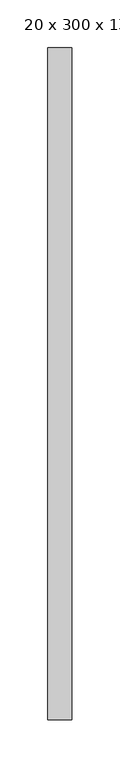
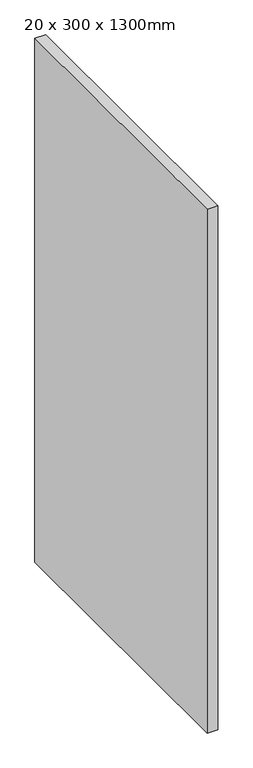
"""IFC4 building model written with IfcOpenShell, lengths in millimetres: proxy geometry, 盥洗室隔断 3 3D : 20 x 300 x 1300mm."""

import ifcopenshell
import ifcopenshell.guid

model = None  # the IFC model being written
_history = None  # IfcOwnerHistory: only IFC2X3 demands one
_inside = {}  # id of a spatial element -> (the spatial element, [elements in it])
_under = {}  # id of a project, library or spatial element -> (it, [spatial elements below it])
_declared = {}  # id of a project -> (the project, [libraries it declares])
_typed = {}  # id of a type object -> (the type object, [elements of that type])
_made_of = {}  # id of a material, layer set ... -> (it, [elements and type objects made of it])


def new_model(schema):
    """Start an empty IFC model of exactly this schema.

    Asked for "IFC4X3", IfcOpenShell would pick the latest addendum, in which some entities
    have other attributes; the version numbers below select the first issue.
    IFC2X3 requires an IfcOwnerHistory on every rooted entity: one is made here for all.
    """
    global model, _history
    if schema == "IFC4X3":
        model = ifcopenshell.file(schema_version=(4, 3, 0, 0))
    else:
        model = ifcopenshell.file(schema=schema)
    _inside.clear()
    _under.clear()
    _declared.clear()
    _typed.clear()
    _made_of.clear()
    _history = None
    if model.schema == "IFC2X3":
        org = make("IfcOrganization", Name="unknown")
        user = make(
            "IfcPersonAndOrganization",
            ThePerson=make("IfcPerson", FamilyName="unknown"),
            TheOrganization=org,
        )
        app = make(
            "IfcApplication",
            ApplicationDeveloper=org,
            Version="unknown",
            ApplicationFullName="unknown",
            ApplicationIdentifier="unknown",
        )
        _history = make(
            "IfcOwnerHistory",
            OwningUser=user,
            OwningApplication=app,
            ChangeAction="ADDED",
            CreationDate=0,
        )
    return model


def make(cls, **values):
    """One entity of the class cls with the attributes given. An attribute that is None is left unset."""
    return model.create_entity(
        cls, **{name: value for name, value in values.items() if value is not None}
    )


def rooted(cls, **values):
    """An entity with a GlobalId (a new one), such as an element, a storey or a relation."""
    return make(cls, GlobalId=ifcopenshell.guid.new(), OwnerHistory=_history, **values)


def si_unit(unit_type, name, prefix=None):
    """IfcSIUnit, for example si_unit("LENGTHUNIT", "METRE", prefix="MILLI")."""
    return make("IfcSIUnit", UnitType=unit_type, Prefix=prefix, Name=name)


def assignment(units):
    """IfcUnitAssignment: the units of a project."""
    return None if units is None else make("IfcUnitAssignment", Units=units)


def point(xyz):
    """IfcCartesianPoint."""
    return None if xyz is None else make("IfcCartesianPoint", Coordinates=xyz)


def direction(xyz):
    """IfcDirection."""
    return None if xyz is None else make("IfcDirection", DirectionRatios=xyz)


def frame(location, z_axis=None, x_axis=None):
    """IfcAxis2Placement3D, a coordinate frame: its origin and axes. An axis left out is left unset."""
    return make(
        "IfcAxis2Placement3D",
        Location=point(location),
        Axis=direction(z_axis),
        RefDirection=direction(x_axis),
    )


def origin():
    """The frame at (0, 0, 0) with its axes left unset."""
    return frame((0.0, 0.0, 0.0))


def origin_with_axes():
    """The frame at (0, 0, 0) with the z axis (0, 0, 1) and the x axis (1, 0, 0) written out."""
    return frame((0.0, 0.0, 0.0), z_axis=(0.0, 0.0, 1.0), x_axis=(1.0, 0.0, 0.0))


def place(relative_to, where):
    """IfcLocalPlacement: puts the frame where relative to a parent placement (None: the world)."""
    return make(
        "IfcLocalPlacement", PlacementRelTo=relative_to, RelativePlacement=where
    )


def context(
    kind, dimensions, precision=None, world=None, true_north=None, identifier=None
):
    """IfcGeometricRepresentationContext, for example the 3D "Model" context."""
    return make(
        "IfcGeometricRepresentationContext",
        ContextIdentifier=identifier,
        ContextType=kind,
        CoordinateSpaceDimension=dimensions,
        Precision=precision,
        WorldCoordinateSystem=world,
        TrueNorth=true_north,
    )


def project(units=None, contexts=None):
    """IfcProject with its units and contexts."""
    return rooted(
        "IfcProject",
        Name="project",
        RepresentationContexts=contexts,
        UnitsInContext=assignment(units),
    )


def spatial(cls, under=None, at=None, **own):
    """A site, building, storey or space (cls), placed at a placement, below another one or the project."""
    s = rooted(cls, ObjectPlacement=at, **own)
    if under is not None:
        _under.setdefault(under.id(), (under, []))[1].append(s)
    return s


def polyline(points):
    """IfcPolyline through the points."""
    return make("IfcPolyline", Points=[point(p) for p in points])


def outline(outer, holes=None, kind="AREA"):
    """IfcArbitraryClosedProfileDef: a profile drawn as a closed curve; with holes, ...WithVoids."""
    if holes is None:
        return make("IfcArbitraryClosedProfileDef", ProfileType=kind, OuterCurve=outer)
    return make(
        "IfcArbitraryProfileDefWithVoids",
        ProfileType=kind,
        OuterCurve=outer,
        InnerCurves=holes,
    )


def extrude(swept, where, along, depth):
    """IfcExtrudedAreaSolid: the profile swept, set in the frame where, extruded along a direction by depth."""
    return make(
        "IfcExtrudedAreaSolid",
        SweptArea=swept,
        Position=where,
        ExtrudedDirection=direction(along),
        Depth=depth,
    )


def shape(context_of_items, identifier, shape_type, items):
    """IfcShapeRepresentation: the items that make up one representation, for example the "Body"."""
    return make(
        "IfcShapeRepresentation",
        ContextOfItems=context_of_items,
        RepresentationIdentifier=identifier,
        RepresentationType=shape_type,
        Items=items,
    )


def source(mapping_origin, context_of_items, identifier, shape_type, items):
    """IfcRepresentationMap: a shape defined once, which mapped items show again and again."""
    return make(
        "IfcRepresentationMap",
        MappingOrigin=mapping_origin,
        MappedRepresentation=shape(context_of_items, identifier, shape_type, items),
    )


def transform(
    local_origin,
    x_axis=None,
    y_axis=None,
    z_axis=None,
    scale=None,
    scale2=None,
    scale3=None,
    uniform=True,
):
    """IfcCartesianTransformationOperator3D, or its non-uniform kind. x_axis, y_axis, z_axis: its Axis1, 2, 3."""
    if uniform:
        return make(
            "IfcCartesianTransformationOperator3D",
            Axis1=direction(x_axis),
            Axis2=direction(y_axis),
            LocalOrigin=point(local_origin),
            Scale=scale,
            Axis3=direction(z_axis),
        )
    return make(
        "IfcCartesianTransformationOperator3DnonUniform",
        Axis1=direction(x_axis),
        Axis2=direction(y_axis),
        LocalOrigin=point(local_origin),
        Scale=scale,
        Axis3=direction(z_axis),
        Scale2=scale2,
        Scale3=scale3,
    )


def mapped(mapping_source, mapping_target):
    """IfcMappedItem: shows the shape of a source again, moved by a transform."""
    return make(
        "IfcMappedItem", MappingSource=mapping_source, MappingTarget=mapping_target
    )


def made_of(thing, what):
    """Note that an element or type object is made of a material, layer set ...; save() writes the relation."""
    if what is not None:
        _made_of.setdefault(what.id(), (what, []))[1].append(thing)
    return thing


def element(
    cls,
    number,
    at=None,
    inside=None,
    cuts=None,
    type_object=None,
    material=None,
    context=None,
    identifier="Body",
    shape_type=None,
    held_by="IfcProductDefinitionShape",
    body=None,
    shapes=None,
    **own,
):
    """One element of the class cls, such as IfcWall. Its Tag is "e" and its number.

    at: its placement. inside: the storey or other place that contains it. cuts: it is an
    opening in that element (IfcRelVoidsElement). A single representation is given by context,
    identifier, shape_type and body (its items); several are given by shapes. held_by: the class
    of the entity that holds the representations. save() writes the other relations.
    """
    e = rooted(cls, Tag="e%d" % number, ObjectPlacement=at, **own)
    if body is not None:
        shapes = [shape(context, identifier, shape_type, body)]
    if shapes is not None:
        e.Representation = make(held_by, Representations=shapes)
    if inside is not None:
        _inside.setdefault(inside.id(), (inside, []))[1].append(e)
    if cuts is not None:
        rooted(
            "IfcRelVoidsElement", RelatingBuildingElement=cuts, RelatedOpeningElement=e
        )
    if type_object is not None:
        _typed.setdefault(type_object.id(), (type_object, []))[1].append(e)
    return made_of(e, material)


def aggregate(whole, parts):
    """IfcRelAggregates: a whole, such as a stair, and the parts it consists of."""
    return rooted("IfcRelAggregates", RelatingObject=whole, RelatedObjects=parts)


def save(model, path):
    """Write the relations noted so far, then the file.

    IfcRelAggregates (storeys below a building ...), IfcRelContainedInSpatialStructure (elements
    in a storey), IfcRelDefinesByType, IfcRelAssociatesMaterial and IfcRelDeclares: one each for
    every whole, place, type object, material and project.
    """
    for whole, parts in _under.values():
        aggregate(whole, parts)
    for where, things in _inside.values():
        rooted(
            "IfcRelContainedInSpatialStructure",
            RelatedElements=things,
            RelatingStructure=where,
        )
    for kind, things in _typed.values():
        rooted("IfcRelDefinesByType", RelatedObjects=things, RelatingType=kind)
    for what, things in _made_of.values():
        rooted("IfcRelAssociatesMaterial", RelatedObjects=things, RelatingMaterial=what)
    for by, libraries in _declared.values():
        rooted("IfcRelDeclares", RelatingContext=by, RelatedDefinitions=libraries)
    model.write(path)


def proxy_20_x_300_x_1300mm_90f93d7e(model_context):
    return source(origin(), model_context, "Body", "SweptSolid", [
        extrude(outline(polyline([(137.5, 800.0), (137.5, 100.0), (112.5, 100.0), (112.5, 800.0), (137.5, 800.0)])), origin_with_axes(), (0.0, 0.0, 1.0), 1300.0),
    ])


if __name__ == "__main__":
    model = new_model("IFC4")
    model_context = context("Model", 3, world=origin())
    ifc_project = project(units=[si_unit("LENGTHUNIT", "METRE", prefix="MILLI")], contexts=[model_context])
    site = spatial("IfcSite", under=ifc_project)
    building = spatial("IfcBuilding", under=site)
    placement = place(None, origin())
    proxy_20_x_300_x_1300mm_shape = proxy_20_x_300_x_1300mm_90f93d7e(model_context)
    element("IfcBuildingElementProxy", 1, Name="盥洗室隔断 3 3D : 20 x 300 x 1300mm", ObjectType="盥洗室隔断 3 3D : 20 x 300 x 1300mm", at=placement, inside=building, context=model_context, shape_type="MappedRepresentation", body=[
        mapped(proxy_20_x_300_x_1300mm_shape, transform((0.0, 0.0, 0.0), x_axis=(1.0, 0.0, 0.0), y_axis=(0.0, 1.0, 0.0), z_axis=(0.0, 0.0, 1.0))),
    ])
    save(model, "model.ifc")
